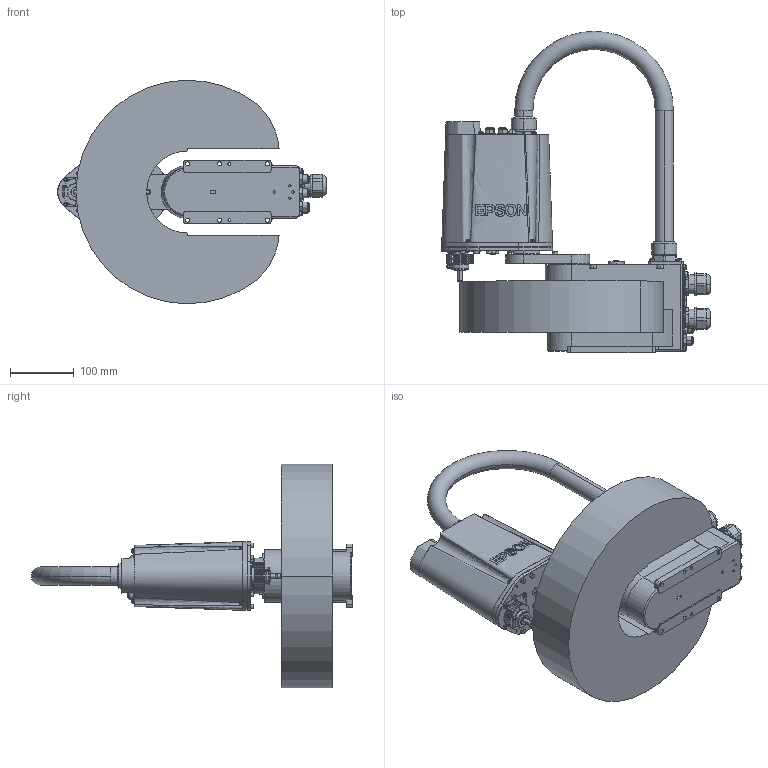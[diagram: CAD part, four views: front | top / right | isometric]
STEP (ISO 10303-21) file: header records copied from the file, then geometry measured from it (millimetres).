
FILE_DESCRIPTION (( 'STEP AP214' ), '1' );
FILE_NAME ('GX1-x171C.STEP', '2025-04-16T20:55:28', ( '' ), ( '' ), 'SwSTEP 2.0', 'SolidWorks 2020', '' );
FILE_SCHEMA (( 'AUTOMOTIVE_DESIGN' ));
Length unit declared in the file: millimetre
Products named in the file (9): GX1-C171C-J1 Arm 1; GX1-C171C-WS; GX1-x171C; GX1-C171C-J1 Arm 2; GX1-C171C - Shaft; GX1-C171C-Base; Bellows 2  - GX1-C171C; Bellows 1 - GX1-C171C; GX1-C171C-cable
Assembly tree (8 placements, depth 2):
  GX1-x171C
    GX1-C171C-Base
    GX1-C171C-J1 Arm 1
    GX1-C171C-J1 Arm 2
    GX1-C171C - Shaft
    Bellows 1 - GX1-C171C
    Bellows 2  - GX1-C171C
    GX1-C171C-cable
    GX1-C171C-WS
Bounding box: 420.68 x 503.25 x 349.88 mm (x, y, z)
Volume: 10705838.4 mm3; surface area: 657766 mm2
Topology: 8 solids, 14 shells, 2108 faces, 4984 edges, 3207 vertices
Faces by surface type: cylinder 987, plane 748, cone 306, torus 38, bspline 27, sphere 2
Entity records: 71481 total; most frequent: CARTESIAN_POINT 17394, ORIENTED_EDGE 9960, DIRECTION 9883, EDGE_CURVE 4980, AXIS2_PLACEMENT_3D 3858, VERTEX_POINT 3205, EDGE_LOOP 2437, LINE 2167
